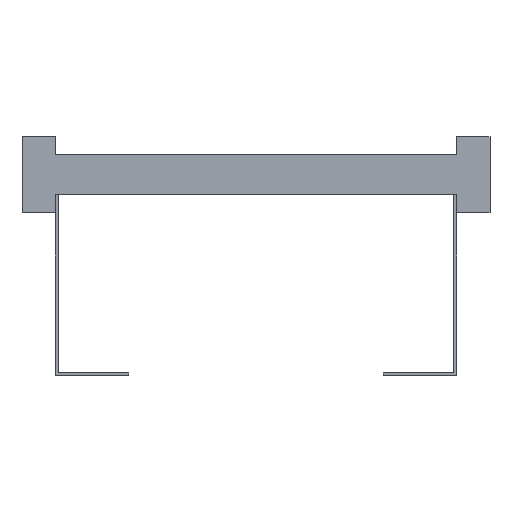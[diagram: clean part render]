
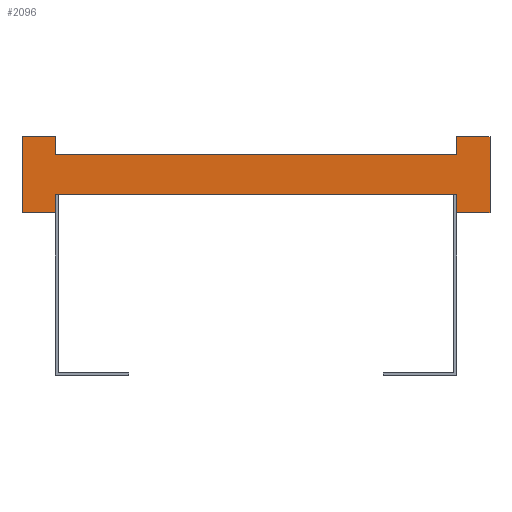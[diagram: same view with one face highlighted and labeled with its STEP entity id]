
A CAD part, front view. The second image highlights one B-rep face of the part: STEP entity #2096.
In plain terms, the highlighted planar face has unit normal (0, -1, 0).
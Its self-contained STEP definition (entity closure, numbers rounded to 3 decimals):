
#705=DIRECTION('',(0.,0.,1.));
#706=VECTOR('',#705,13.5);
#707=CARTESIAN_POINT('',(150.,0.,-28.5));
#708=LINE('',#707,#706);
#709=DIRECTION('',(0.,0.,-1.));
#710=VECTOR('',#709,13.5);
#711=CARTESIAN_POINT('',(-150.,0.,-15.));
#712=LINE('',#711,#710);
#713=DIRECTION('',(-1.,0.,0.));
#714=VECTOR('',#713,25.);
#715=CARTESIAN_POINT('',(-150.,0.,-28.5));
#716=LINE('',#715,#714);
#717=DIRECTION('',(0.,0.,1.));
#718=VECTOR('',#717,57.);
#719=CARTESIAN_POINT('',(-175.,0.,-28.5));
#720=LINE('',#719,#718);
#721=DIRECTION('',(1.,0.,0.));
#722=VECTOR('',#721,25.);
#723=CARTESIAN_POINT('',(-175.,0.,28.5));
#724=LINE('',#723,#722);
#725=DIRECTION('',(0.,0.,-1.));
#726=VECTOR('',#725,13.5);
#727=CARTESIAN_POINT('',(-150.,0.,28.5));
#728=LINE('',#727,#726);
#729=DIRECTION('',(0.,0.,1.));
#730=VECTOR('',#729,13.5);
#731=CARTESIAN_POINT('',(150.,0.,15.));
#732=LINE('',#731,#730);
#733=DIRECTION('',(1.,0.,0.));
#734=VECTOR('',#733,25.);
#735=CARTESIAN_POINT('',(150.,0.,28.5));
#736=LINE('',#735,#734);
#737=DIRECTION('',(0.,0.,-1.));
#738=VECTOR('',#737,57.);
#739=CARTESIAN_POINT('',(175.,0.,28.5));
#740=LINE('',#739,#738);
#741=DIRECTION('',(-1.,0.,0.));
#742=VECTOR('',#741,25.);
#743=CARTESIAN_POINT('',(175.,0.,-28.5));
#744=LINE('',#743,#742);
#745=DIRECTION('',(1.,0.,0.));
#746=VECTOR('',#745,300.);
#747=CARTESIAN_POINT('',(-150.,0.,-15.));
#748=LINE('',#747,#746);
#757=DIRECTION('',(1.,0.,0.));
#758=VECTOR('',#757,300.);
#759=CARTESIAN_POINT('',(-150.,0.,15.));
#760=LINE('',#759,#758);
#977=CARTESIAN_POINT('',(-175.,0.,28.5));
#978=CARTESIAN_POINT('',(-150.,0.,28.5));
#979=VERTEX_POINT('',#977);
#980=VERTEX_POINT('',#978);
#981=CARTESIAN_POINT('',(-150.,0.,-28.5));
#982=CARTESIAN_POINT('',(-175.,0.,-28.5));
#983=VERTEX_POINT('',#981);
#984=VERTEX_POINT('',#982);
#985=CARTESIAN_POINT('',(175.,0.,28.5));
#986=CARTESIAN_POINT('',(175.,0.,-28.5));
#987=VERTEX_POINT('',#985);
#988=VERTEX_POINT('',#986);
#989=CARTESIAN_POINT('',(150.,0.,-28.5));
#990=VERTEX_POINT('',#989);
#991=CARTESIAN_POINT('',(150.,0.,28.5));
#992=VERTEX_POINT('',#991);
#993=CARTESIAN_POINT('',(-150.,0.,-15.));
#995=VERTEX_POINT('',#993);
#997=CARTESIAN_POINT('',(-150.,0.,15.));
#999=VERTEX_POINT('',#997);
#1001=CARTESIAN_POINT('',(150.,0.,-15.));
#1003=VERTEX_POINT('',#1001);
#1005=CARTESIAN_POINT('',(150.,0.,15.));
#1007=VERTEX_POINT('',#1005);
#2071=CARTESIAN_POINT('',(0.,0.,0.));
#2072=DIRECTION('',(0.,1.,0.));
#2073=DIRECTION('',(1.,0.,0.));
#2074=AXIS2_PLACEMENT_3D('',#2071,#2072,#2073);
#2075=PLANE('',#2074);
#2076=ORIENTED_EDGE('',*,*,#1461,.T.);
#2078=ORIENTED_EDGE('',*,*,#2077,.F.);
#2079=ORIENTED_EDGE('',*,*,#1590,.T.);
#2080=ORIENTED_EDGE('',*,*,#2018,.T.);
#2082=ORIENTED_EDGE('',*,*,#2081,.T.);
#2083=ORIENTED_EDGE('',*,*,#2064,.T.);
#2084=ORIENTED_EDGE('',*,*,#1598,.T.);
#2086=ORIENTED_EDGE('',*,*,#2085,.T.);
#2087=ORIENTED_EDGE('',*,*,#1453,.T.);
#2089=ORIENTED_EDGE('',*,*,#2088,.T.);
#2091=ORIENTED_EDGE('',*,*,#2090,.T.);
#2093=ORIENTED_EDGE('',*,*,#2092,.T.);
#2094=EDGE_LOOP('',(#2076,#2078,#2079,#2080,#2082,#2083,#2084,#2086,#2087,#2089,
#2091,#2093));
#2095=FACE_OUTER_BOUND('',#2094,.F.);
#1453=EDGE_CURVE('',#1007,#992,#732,.T.);
#1461=EDGE_CURVE('',#990,#1003,#708,.T.);
#1590=EDGE_CURVE('',#995,#983,#712,.T.);
#1598=EDGE_CURVE('',#980,#999,#728,.T.);
#2018=EDGE_CURVE('',#983,#984,#716,.T.);
#2064=EDGE_CURVE('',#979,#980,#724,.T.);
#2077=EDGE_CURVE('',#995,#1003,#748,.T.);
#2081=EDGE_CURVE('',#984,#979,#720,.T.);
#2085=EDGE_CURVE('',#999,#1007,#760,.T.);
#2088=EDGE_CURVE('',#992,#987,#736,.T.);
#2090=EDGE_CURVE('',#987,#988,#740,.T.);
#2092=EDGE_CURVE('',#988,#990,#744,.T.);
#2096=ADVANCED_FACE('',(#2095),#2075,.F.);
